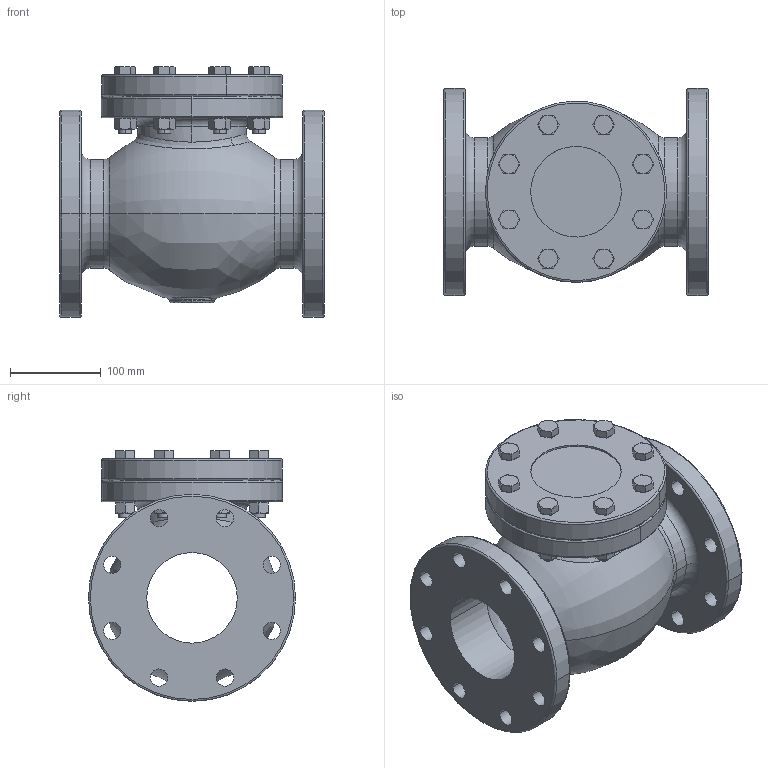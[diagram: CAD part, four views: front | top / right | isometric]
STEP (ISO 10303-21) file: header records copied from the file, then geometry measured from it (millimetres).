
FILE_DESCRIPTION(('Open CASCADE Model'),'2;1');
FILE_NAME('Open CASCADE Shape Model','2022-03-10T07:37:42',('Author'),( 'Open CASCADE'),'Open CASCADE STEP processor 7.3','Open CASCADE 7.3' ,'Unknown');
FILE_SCHEMA(('AUTOMOTIVE_DESIGN { 1 0 10303 214 1 1 1 1 }'));
Length unit declared in the file: millimetre
Products named in the file (19): Open CASCADE STEP translator 7.3 1; Open CASCADE STEP translator 7.3 1.1; Open CASCADE STEP translator 7.3 1.2; Open CASCADE STEP translator 7.3 1.3; Open CASCADE STEP translator 7.3 1.4; Open CASCADE STEP translator 7.3 1.5; Open CASCADE STEP translator 7.3 1.6; Open CASCADE STEP translator 7.3 1.7; Open CASCADE STEP translator 7.3 1.8; Open CASCADE STEP translator 7.3 1.9; Open CASCADE STEP translator 7.3 1.10; Open CASCADE STEP translator 7.3 1.11; Open CASCADE STEP translator 7.3 1.12; Open CASCADE STEP translator 7.3 1.13; Open CASCADE STEP translator 7.3 1.14; Open CASCADE STEP translator 7.3 1.15; Open CASCADE STEP translator 7.3 1.16; Open CASCADE STEP translator 7.3 1.17; Open CASCADE STEP translator 7.3 1.18
Assembly tree (18 placements, depth 2):
  Open CASCADE STEP translator 7.3 1
    Open CASCADE STEP translator 7.3 1.1
    Open CASCADE STEP translator 7.3 1.2
    Open CASCADE STEP translator 7.3 1.3
    Open CASCADE STEP translator 7.3 1.4
    Open CASCADE STEP translator 7.3 1.5
    Open CASCADE STEP translator 7.3 1.6
    Open CASCADE STEP translator 7.3 1.7
    Open CASCADE STEP translator 7.3 1.8
    Open CASCADE STEP translator 7.3 1.9
    Open CASCADE STEP translator 7.3 1.10
    Open CASCADE STEP translator 7.3 1.11
    Open CASCADE STEP translator 7.3 1.12
    Open CASCADE STEP translator 7.3 1.13
    Open CASCADE STEP translator 7.3 1.14
    Open CASCADE STEP translator 7.3 1.15
    Open CASCADE STEP translator 7.3 1.16
    Open CASCADE STEP translator 7.3 1.17
    Open CASCADE STEP translator 7.3 1.18
Bounding box: 292.1 x 228.6 x 276.78 mm (x, y, z)
Volume: 4061436 mm3; surface area: 625804.5 mm2
Topology: 18 solids, 18 shells, 501 faces, 1180 edges, 732 vertices
Faces by surface type: plane 195, cone 144, cylinder 124, torus 28, revolution 6, bspline 4
Entity records: 43741 total; most frequent: CARTESIAN_POINT 20645, DIRECTION 4036, ORIENTED_EDGE 2360, PCURVE 2360, DEFINITIONAL_REPRESENTATION 2360, LINE 1834, VECTOR 1834, EDGE_CURVE 1180
